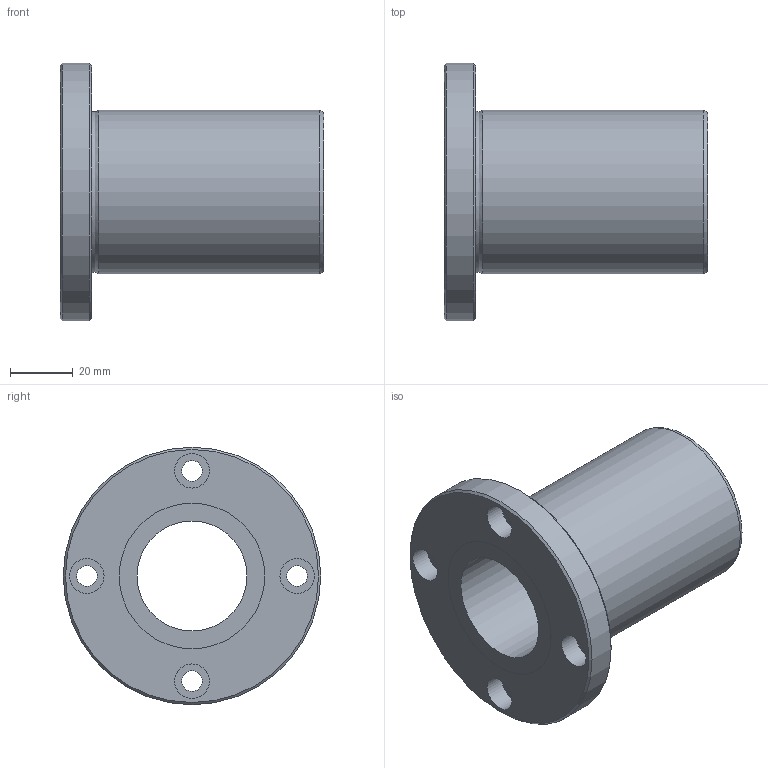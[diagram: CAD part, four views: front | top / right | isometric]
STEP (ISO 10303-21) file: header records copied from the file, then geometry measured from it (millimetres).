
FILE_DESCRIPTION((''),'2;1');
FILE_NAME('C:\Documents and Settings\土屋\My Documents\土屋移動用フォルダ\製品 (図面)\カタログ用3D\変換ファイル\OZAK_3D-CAD(STEP形式)\Part1.-Linear Bearings_ﾘﾆｱﾍﾞｱﾘﾝｸﾞ\09_Maintenance Free_ﾒｲﾝﾃﾅﾝｽﾌﾘｰ\L2017-09-21T11:54:18','2017-09-21T11:54:18',('y'),(''),'Autodesk Inventor 11','Autodesk Inventor 11','');
FILE_SCHEMA(('AUTOMOTIVE_DESIGN { 1 0 10303 214 1 1 1 1 }'));
Length unit declared in the file: millimetre
Products named in the file (1): LF-MF
Bounding box: 84 x 82 x 82 mm (x, y, z)
Volume: 125713.4 mm3; surface area: 33221.8 mm2
Topology: 1 solids, 1 shells, 26 faces, 47 edges, 30 vertices
Faces by surface type: cylinder 13, plane 9, cone 2, torus 1, bspline 1
Full cylindrical faces by diameter (mm): 6.6 x4, 11 x4, 35 x1, 46.4 x2, 52 x1, 82 x1
Entity records: 665 total; most frequent: CARTESIAN_POINT 149, DIRECTION 112, ORIENTED_EDGE 60, EDGE_LOOP 60, AXIS2_PLACEMENT_3D 56, FACE_BOUND 34, VERTEX_POINT 30, CIRCLE 30
